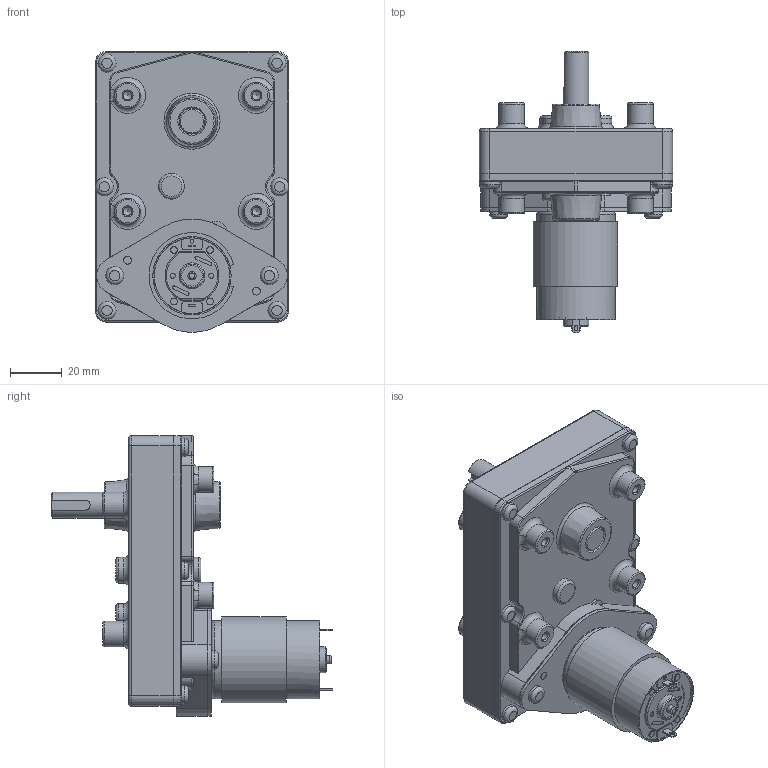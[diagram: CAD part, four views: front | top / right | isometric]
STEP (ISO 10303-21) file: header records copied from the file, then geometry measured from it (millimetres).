
FILE_DESCRIPTION(/* description */ (''),/* implementation_level */ '2;1');
FILE_NAME(/* name */ 'TP-3442#-LGL.stp',/* time_stamp */ '2023-10-26T11:43:39+09:00',/* author */ ('user'),/* organization */ (''),/* preprocessor_version */ 'ST-DEVELOPER v19.2',/* originating_system */ 'Autodesk Inventor 2024',/* authorisation */ '');
FILE_SCHEMA (('AUTOMOTIVE_DESIGN { 1 0 10303 214 3 1 1 }'));
Length unit declared in the file: millimetre
Products named in the file (3): TP-3442#-LGL-J00-24; lgl; TP-3442#(RS-435PV)
Assembly tree (2 placements, depth 2):
  TP-3442#-LGL-J00-24
    lgl
    TP-3442#(RS-435PV)
Bounding box: 75 x 109.1 x 109 mm (x, y, z)
Volume: 253276 mm3; surface area: 37550.2 mm2
Topology: 2 solids, 2 shells, 353 faces, 837 edges, 533 vertices
Faces by surface type: plane 135, cylinder 126, torus 63, cone 25, bspline 4
Full cylindrical faces by diameter (mm): 1.5 x1, 2 x2, 2.459 x2, 2.5 x1, 2.6 x4, 3 x2, 3.17 x2, 3.242 x8, 7 x8, 8 x1, 8.3 x1, 9 x2, 9.9 x1, 10 x12, 15 x1, 29.4 x1, 30.4 x1
Entity records: 10567 total; most frequent: DIRECTION 1950, CARTESIAN_POINT 1898, ORIENTED_EDGE 1654, EDGE_CURVE 827, AXIS2_PLACEMENT_3D 787, VERTEX_POINT 533, CIRCLE 425, EDGE_LOOP 412
